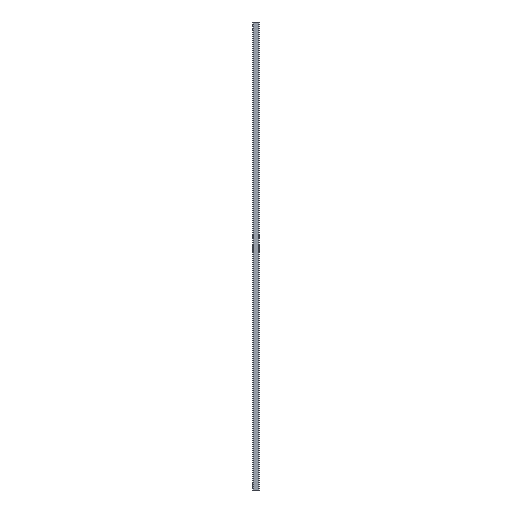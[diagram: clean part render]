
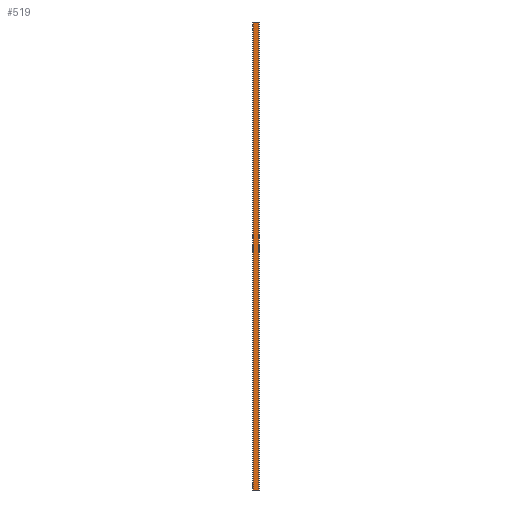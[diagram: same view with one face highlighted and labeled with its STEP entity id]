
A CAD part, left-side view. The second image highlights one B-rep face of the part: STEP entity #519.
In plain terms, the highlighted planar face has unit normal (-1, 0, 0).
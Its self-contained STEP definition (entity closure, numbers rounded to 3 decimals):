
#49 = CARTESIAN_POINT ( 'NONE',  ( -8., 12.5, 879. ) ) ;
#83 = FACE_OUTER_BOUND ( 'NONE', #826, .T. ) ;
#142 = VECTOR ( 'NONE', #1613, 1000. ) ;
#207 = CARTESIAN_POINT ( 'NONE',  ( -8., 0., 0. ) ) ;
#213 = EDGE_CURVE ( 'NONE', #617, #1452, #524, .T. ) ;
#236 = CARTESIAN_POINT ( 'NONE',  ( -8., 0., 0. ) ) ;
#273 = DIRECTION ( 'NONE',  ( 0., 0., -1. ) ) ;
#276 = LINE ( 'NONE', #49, #1274 ) ;
#294 = LINE ( 'NONE', #1525, #839 ) ;
#308 = DIRECTION ( 'NONE',  ( 0., 1., 0. ) ) ;
#369 = ORIENTED_EDGE ( 'NONE', *, *, #1520, .T. ) ;
#378 = CARTESIAN_POINT ( 'NONE',  ( -8., 12.5, 879. ) ) ;
#389 = LINE ( 'NONE', #1593, #142 ) ;
#401 = CARTESIAN_POINT ( 'NONE',  ( -8., 12.5, 879. ) ) ;
#444 = EDGE_CURVE ( 'NONE', #701, #997, #1378, .T. ) ;
#452 = LINE ( 'NONE', #953, #1213 ) ;
#483 = CARTESIAN_POINT ( 'NONE',  ( -8., 0., 879. ) ) ;
#510 = VECTOR ( 'NONE', #1070, 1000. ) ;
#519 = ADVANCED_FACE ( 'NONE', ( #83 ), #728, .T. ) ;
#522 = CARTESIAN_POINT ( 'NONE',  ( -8., 3.2, 0. ) ) ;
#524 = LINE ( 'NONE', #401, #1167 ) ;
#544 = CARTESIAN_POINT ( 'NONE',  ( -8., 3.2, 879. ) ) ;
#575 = CARTESIAN_POINT ( 'NONE',  ( -8., 0., 0. ) ) ;
#610 = EDGE_CURVE ( 'NONE', #843, #997, #389, .T. ) ;
#617 = VERTEX_POINT ( 'NONE', #378 ) ;
#660 = CARTESIAN_POINT ( 'NONE',  ( -8., 0., 0. ) ) ;
#664 = CARTESIAN_POINT ( 'NONE',  ( -8., 12.5, 0. ) ) ;
#666 = EDGE_CURVE ( 'NONE', #701, #731, #1582, .T. ) ;
#670 = CARTESIAN_POINT ( 'NONE',  ( -8., 9.3, 0. ) ) ;
#681 = CARTESIAN_POINT ( 'NONE',  ( -8., 0., 879. ) ) ;
#701 = VERTEX_POINT ( 'NONE', #522 ) ;
#716 = DIRECTION ( 'NONE',  ( 0., -1., 0. ) ) ;
#728 = PLANE ( 'NONE',  #1043 ) ;
#731 = VERTEX_POINT ( 'NONE', #670 ) ;
#742 = VERTEX_POINT ( 'NONE', #900 ) ;
#783 = VERTEX_POINT ( 'NONE', #544 ) ;
#795 = ORIENTED_EDGE ( 'NONE', *, *, #666, .F. ) ;
#818 = VECTOR ( 'NONE', #1402, 1000. ) ;
#822 = DIRECTION ( 'NONE',  ( 0., 1., 0. ) ) ;
#826 = EDGE_LOOP ( 'NONE', ( #795, #1692, #1209, #1765, #369, #1086, #1175, #1260 ) ) ;
#839 = VECTOR ( 'NONE', #716, 1000. ) ;
#843 = VERTEX_POINT ( 'NONE', #681 ) ;
#900 = CARTESIAN_POINT ( 'NONE',  ( -8., 9.3, 879. ) ) ;
#953 = CARTESIAN_POINT ( 'NONE',  ( -8., 0., 879. ) ) ;
#985 = DIRECTION ( 'NONE',  ( 0., 1., 0. ) ) ;
#997 = VERTEX_POINT ( 'NONE', #236 ) ;
#1018 = DIRECTION ( 'NONE',  ( 0., 0., 1. ) ) ;
#1043 = AXIS2_PLACEMENT_3D ( 'NONE', #483, #1533, #1018 ) ;
#1070 = DIRECTION ( 'NONE',  ( 0., 1., 0. ) ) ;
#1086 = ORIENTED_EDGE ( 'NONE', *, *, #1121, .T. ) ;
#1121 = EDGE_CURVE ( 'NONE', #742, #617, #276, .T. ) ;
#1167 = VECTOR ( 'NONE', #273, 1000. ) ;
#1175 = ORIENTED_EDGE ( 'NONE', *, *, #213, .T. ) ;
#1209 = ORIENTED_EDGE ( 'NONE', *, *, #610, .F. ) ;
#1213 = VECTOR ( 'NONE', #985, 1000. ) ;
#1254 = LINE ( 'NONE', #575, #1409 ) ;
#1260 = ORIENTED_EDGE ( 'NONE', *, *, #1611, .F. ) ;
#1274 = VECTOR ( 'NONE', #308, 1000. ) ;
#1378 = LINE ( 'NONE', #207, #818 ) ;
#1402 = DIRECTION ( 'NONE',  ( 0., -1., 0. ) ) ;
#1409 = VECTOR ( 'NONE', #822, 1000. ) ;
#1452 = VERTEX_POINT ( 'NONE', #664 ) ;
#1515 = EDGE_CURVE ( 'NONE', #783, #843, #294, .T. ) ;
#1520 = EDGE_CURVE ( 'NONE', #783, #742, #452, .T. ) ;
#1525 = CARTESIAN_POINT ( 'NONE',  ( -8., 0., 879. ) ) ;
#1533 = DIRECTION ( 'NONE',  ( -1., 0., 0. ) ) ;
#1582 = LINE ( 'NONE', #660, #510 ) ;
#1593 = CARTESIAN_POINT ( 'NONE',  ( -8., 0., 879. ) ) ;
#1611 = EDGE_CURVE ( 'NONE', #731, #1452, #1254, .T. ) ;
#1613 = DIRECTION ( 'NONE',  ( 0., 0., -1. ) ) ;
#1692 = ORIENTED_EDGE ( 'NONE', *, *, #444, .T. ) ;
#1765 = ORIENTED_EDGE ( 'NONE', *, *, #1515, .F. ) ;
